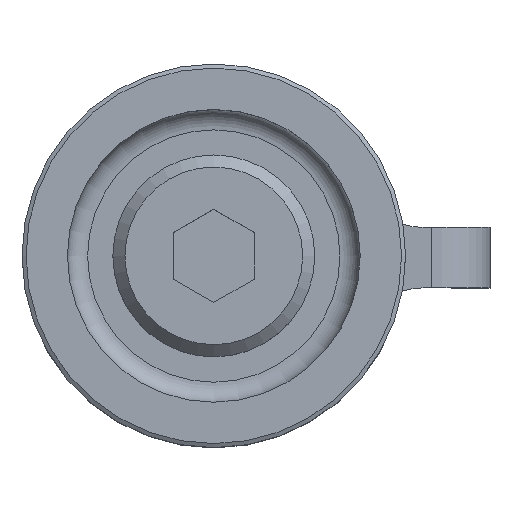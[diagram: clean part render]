
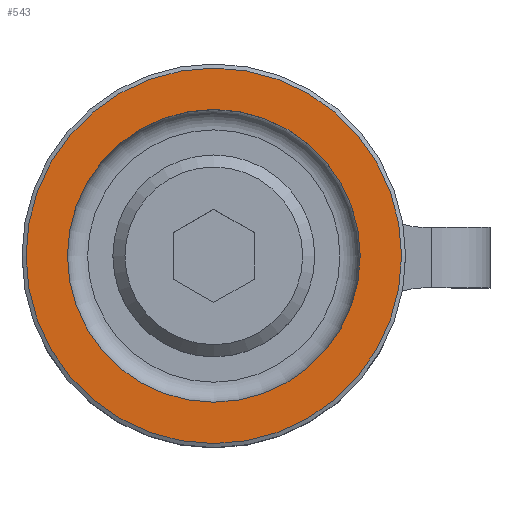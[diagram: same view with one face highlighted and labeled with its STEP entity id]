
A CAD part, top view. The second image highlights one B-rep face of the part: STEP entity #543.
In plain terms, the highlighted planar face has unit normal (0, 0, 1).
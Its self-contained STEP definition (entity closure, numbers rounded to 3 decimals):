
#207=FACE_BOUND('',#922,.T.);
#208=FACE_BOUND('',#923,.T.);
#543=ADVANCED_FACE('A_MATE1',(#207,#208),#652,.F.);
#652=PLANE('',#2506);
#922=EDGE_LOOP('',(#1495));
#923=EDGE_LOOP('',(#1496));
#1110=CIRCLE('',#2504,9.3);
#1111=CIRCLE('',#2505,7.25);
#1495=ORIENTED_EDGE('',*,*,#2046,.T.);
#1496=ORIENTED_EDGE('',*,*,#2047,.F.);
#1807=VERTEX_POINT('',#3795);
#1808=VERTEX_POINT('',#3797);
#2046=EDGE_CURVE('',#1807,#1807,#1110,.T.);
#2047=EDGE_CURVE('',#1808,#1808,#1111,.T.);
#2504=AXIS2_PLACEMENT_3D('',#3794,#3067,#3068);
#2505=AXIS2_PLACEMENT_3D('',#3796,#3069,#3070);
#2506=AXIS2_PLACEMENT_3D('',#3798,#3071,#3072);
#3067=DIRECTION('',(0.,0.,1.));
#3068=DIRECTION('',(-1.,0.,0.));
#3069=DIRECTION('',(0.,0.,1.));
#3070=DIRECTION('',(-1.,0.,0.));
#3071=DIRECTION('',(0.,0.,-1.));
#3072=DIRECTION('',(-1.,0.,0.));
#3794=CARTESIAN_POINT('',(0.,0.,50.));
#3795=CARTESIAN_POINT('',(-9.3,0.,50.));
#3796=CARTESIAN_POINT('',(0.,0.,50.));
#3797=CARTESIAN_POINT('',(-7.25,0.,50.));
#3798=CARTESIAN_POINT('',(0.,9.5,50.));
